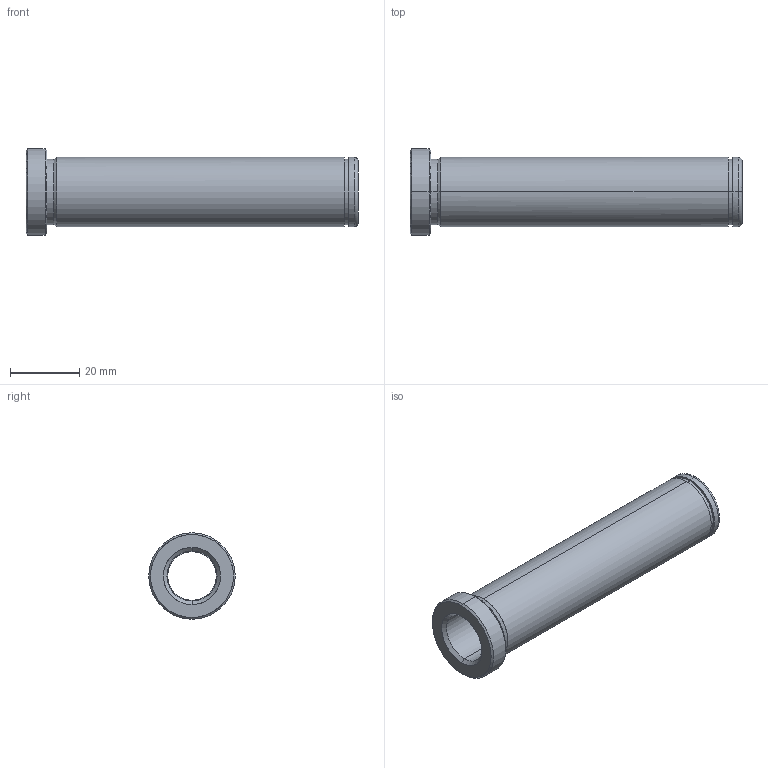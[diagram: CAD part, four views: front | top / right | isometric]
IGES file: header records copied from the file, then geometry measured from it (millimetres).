
Start section: START RECORD GO HERE.
Global section: file name: 553-14X96.igs; native system: DASSAULT SYSTEMES CATIA V5 R20 - www.3ds.com; preprocessor: CATIA Version 5 Release 20 ; author: Utente; organization: NB04-ASUS; date: 20210521.202925; units: millimetre
Bounding box: 96 x 25 x 25 mm (x, y, z)
Surface area: 11062.4 mm2 (no closed solid volume)
Topology: 0 solids, 0 shells, 32 faces, 204 edges, 204 vertices
Faces by surface type: revolution 26, plane 6
